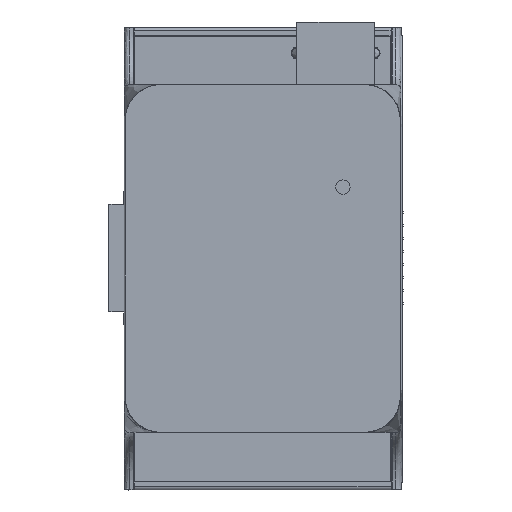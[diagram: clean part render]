
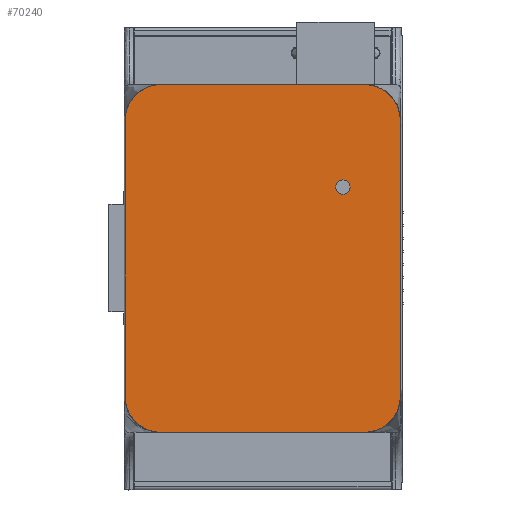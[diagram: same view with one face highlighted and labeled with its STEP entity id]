
A CAD part, top view. The second image highlights one B-rep face of the part: STEP entity #70240.
In plain terms, the highlighted planar face has unit normal (0, 0, 1).
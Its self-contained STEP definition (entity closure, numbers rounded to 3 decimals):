
#1442=FACE_BOUND('',#7871,.T.);
#2087=CIRCLE('',#74316,7.);
#2088=CIRCLE('',#74318,7.);
#2089=CIRCLE('',#74321,7.);
#2090=CIRCLE('',#74323,7.);
#2091=CIRCLE('',#74324,1.4);
#2092=CIRCLE('',#74325,1.4);
#4070=FACE_OUTER_BOUND('',#7870,.T.);
#7870=EDGE_LOOP('',(#52366,#52367,#52368,#52369,#52370,#52371,#52372,#52373));
#7871=EDGE_LOOP('',(#52374,#52375));
#13911=LINE('',#110062,#22387);
#13915=LINE('',#110070,#22391);
#13919=LINE('',#110086,#22395);
#13920=LINE('',#110092,#22396);
#22387=VECTOR('',#84681,10.);
#22391=VECTOR('',#84687,10.);
#22395=VECTOR('',#84705,10.);
#22396=VECTOR('',#84714,10.);
#30027=VERTEX_POINT('',#110050);
#30032=VERTEX_POINT('',#110060);
#30034=VERTEX_POINT('',#110065);
#30035=VERTEX_POINT('',#110068);
#30038=VERTEX_POINT('',#110076);
#30039=VERTEX_POINT('',#110080);
#30040=VERTEX_POINT('',#110084);
#30041=VERTEX_POINT('',#110090);
#30042=VERTEX_POINT('',#110093);
#30043=VERTEX_POINT('',#110094);
#38007=EDGE_CURVE('',#30027,#30032,#13911,.T.);
#38011=EDGE_CURVE('',#30034,#30035,#13915,.T.);
#38015=EDGE_CURVE('',#30038,#30032,#2087,.T.);
#38016=EDGE_CURVE('',#30027,#30039,#2088,.T.);
#38019=EDGE_CURVE('',#30040,#30039,#13919,.T.);
#38020=EDGE_CURVE('',#30040,#30035,#2089,.T.);
#38021=EDGE_CURVE('',#30034,#30041,#2090,.T.);
#38022=EDGE_CURVE('',#30038,#30041,#13920,.T.);
#38023=EDGE_CURVE('',#30042,#30043,#2091,.T.);
#38024=EDGE_CURVE('',#30043,#30042,#2092,.T.);
#52366=ORIENTED_EDGE('',*,*,#38021,.F.);
#52367=ORIENTED_EDGE('',*,*,#38011,.T.);
#52368=ORIENTED_EDGE('',*,*,#38020,.F.);
#52369=ORIENTED_EDGE('',*,*,#38019,.T.);
#52370=ORIENTED_EDGE('',*,*,#38016,.F.);
#52371=ORIENTED_EDGE('',*,*,#38007,.T.);
#52372=ORIENTED_EDGE('',*,*,#38015,.F.);
#52373=ORIENTED_EDGE('',*,*,#38022,.T.);
#52374=ORIENTED_EDGE('',*,*,#38023,.T.);
#52375=ORIENTED_EDGE('',*,*,#38024,.T.);
#64261=PLANE('',#74322);
#70240=ADVANCED_FACE('',(#4070,#1442),#64261,.T.);
#74316=AXIS2_PLACEMENT_3D('',#110078,#84695,#84696);
#74318=AXIS2_PLACEMENT_3D('',#110081,#84699,#84700);
#74321=AXIS2_PLACEMENT_3D('',#110088,#84708,#84709);
#74322=AXIS2_PLACEMENT_3D('',#110089,#84710,#84711);
#74323=AXIS2_PLACEMENT_3D('',#110091,#84712,#84713);
#74324=AXIS2_PLACEMENT_3D('',#110095,#84715,#84716);
#74325=AXIS2_PLACEMENT_3D('',#110096,#84717,#84718);
#84681=DIRECTION('',(0.,-1.,0.));
#84687=DIRECTION('',(0.,1.,0.));
#84695=DIRECTION('center_axis',(0.,0.,
-1.));
#84696=DIRECTION('ref_axis',(-0.707,-0.707,0.));
#84699=DIRECTION('center_axis',(0.,0.,
-1.));
#84700=DIRECTION('ref_axis',(-0.707,0.707,0.));
#84705=DIRECTION('',(-1.,0.,0.));
#84708=DIRECTION('center_axis',(0.,0.,
-1.));
#84709=DIRECTION('ref_axis',(0.707,0.707,0.));
#84710=DIRECTION('center_axis',(0.,0.,
1.));
#84711=DIRECTION('ref_axis',(-1.,0.,0.));
#84712=DIRECTION('center_axis',(0.,0.,
-1.));
#84713=DIRECTION('ref_axis',(0.707,-0.707,0.));
#84714=DIRECTION('',(1.,0.,0.));
#84715=DIRECTION('center_axis',(0.,0.,
-1.));
#84716=DIRECTION('ref_axis',(0.,1.,0.));
#84717=DIRECTION('center_axis',(0.,0.,
-1.));
#84718=DIRECTION('ref_axis',(0.,1.,0.));
#110050=CARTESIAN_POINT('',(-26.73,27.011,46.886));
#110060=CARTESIAN_POINT('',(-26.73,-26.534,46.886));
#110062=CARTESIAN_POINT('',(-26.73,34.011,46.886));
#110065=CARTESIAN_POINT('',(26.725,-26.534,46.886));
#110068=CARTESIAN_POINT('',(26.725,27.011,46.886));
#110070=CARTESIAN_POINT('',(26.725,-33.534,46.886));
#110076=CARTESIAN_POINT('',(-19.73,-33.534,46.886));
#110078=CARTESIAN_POINT('Origin',(-19.73,-26.534,46.886));
#110080=CARTESIAN_POINT('',(-19.73,34.011,46.886));
#110081=CARTESIAN_POINT('Origin',(-19.73,27.011,46.886));
#110084=CARTESIAN_POINT('',(19.725,34.011,46.886));
#110086=CARTESIAN_POINT('',(26.725,34.011,46.886));
#110088=CARTESIAN_POINT('Origin',(19.725,27.011,46.886));
#110089=CARTESIAN_POINT('Origin',(17.829,6.029,46.886));
#110090=CARTESIAN_POINT('',(19.725,-33.534,46.886));
#110091=CARTESIAN_POINT('Origin',(19.725,-26.534,46.886));
#110092=CARTESIAN_POINT('',(-26.73,-33.534,46.886));
#110093=CARTESIAN_POINT('',(15.57,12.68,46.886));
#110094=CARTESIAN_POINT('',(16.97,14.08,46.886));
#110095=CARTESIAN_POINT('Origin',(15.57,14.08,46.886));
#110096=CARTESIAN_POINT('Origin',(15.57,14.08,46.886));
